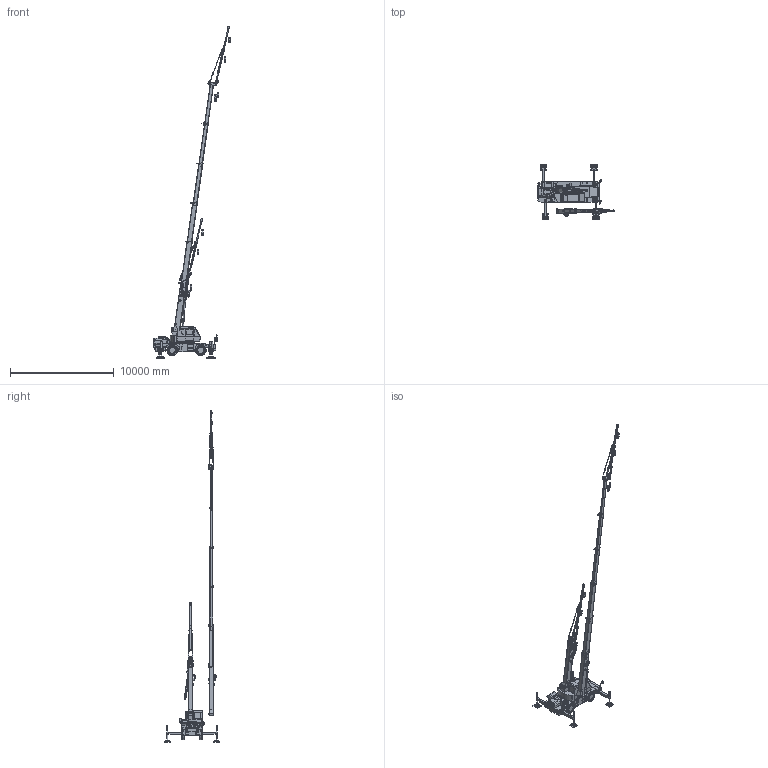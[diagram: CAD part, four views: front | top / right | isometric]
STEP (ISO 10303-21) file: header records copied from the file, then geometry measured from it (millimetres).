
FILE_DESCRIPTION(('CATIA V5 STEP Exchange'),'2;1');
FILE_NAME('\\Iba001\cad\CR\HP用CADデータ\15A\STP\MR-130Rf2 3D H-type for WEB.stp','2021-11-02T08:42:11+00:00',('none'),('none'),'CATIA Version 5-6 Release 2017 SP5 HF78','CATIA V5 STEP AP203','none');
FILE_SCHEMA(('CONFIG_CONTROL_DESIGN'));
Products named in the file (17): MR-130Rf2 3D; MR-130Rf2 CARRIER H Type; MR-130Rf2 Tire-ASM; MR-130Rf2 OUTRIGGER; MR-130Rf BEAM F-L; MR-130Rf BEAM F-R; MR-130Rf BEAM R-L; MR-130Rf BEAM R-R; MR-130Rf2 UPPER; MR-130Rf2 UPPER STRUCTURE.1; MR-130Rf2 BOOM Min JIB; MR-130Rf2 BOOM Min; MR-130Rf2 JIB; MR-130Rf2 TENSION ROD ASSY; MR-130Rf2 JIB Stowed; MR-130Rf2 BOOM Max JIB; MR-130Rf2 BOOM Max
Assembly tree (73 placements, depth 6):
  MR-130Rf2 3D
    MR-130Rf2 CARRIER H Type
      #65
      #46838
      #81334
      MR-130Rf2 Tire-ASM
        #82726  x4
      #83231
      MR-130Rf2 OUTRIGGER
        MR-130Rf BEAM F-L
          #92182
          #93243
          #94312
        MR-130Rf BEAM F-R
          #92182
          #93243
          #94312
        MR-130Rf BEAM R-L
          #92182
          #93243
          #94312
        MR-130Rf BEAM R-R
          #92182
          #93243
          #94312
    MR-130Rf2 UPPER
      MR-130Rf2 UPPER STRUCTURE.1
        #95380
        #99252
        #119030
        #125003
        #125369
      MR-130Rf2 BOOM Min JIB
        MR-130Rf2 BOOM Min
          #125782
          #135992
          #137816
          #140467
          #142640
          #147643
        MR-130Rf2 JIB
          #153660
          #157514
          #158687
          MR-130Rf2 TENSION ROD ASSY
            #160225  x2
            #161342  x2
            #162669  x2
        MR-130Rf2 JIB Stowed
          #153660
          #157514
        #163622  x3
        #169839
      MR-130Rf2 BOOM Max JIB
        MR-130Rf2 BOOM Max
          #125782
          #135992
          #137816
          #140467
          #142640
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Bounding box: 7393.47 x 5350 x 31943.12 mm (x, y, z)
Volume: 23452934977.2 mm3; surface area: 311610779 mm2
Topology: 159 solids, 161 shells, 8202 faces, 21573 edges, 13940 vertices
Faces by surface type: plane 4447, cylinder 2181, bspline 495, extrusion 479, torus 412, cone 90, revolution 78, sphere 20
Entity records: 197235 total; most frequent: CARTESIAN_POINT 68275, ORIENTED_EDGE 29786, DIRECTION 20023, EDGE_CURVE 14893, VERTEX_POINT 9600, VECTOR 9138, LINE 8794, AXIS2_PLACEMENT_3D 7027
